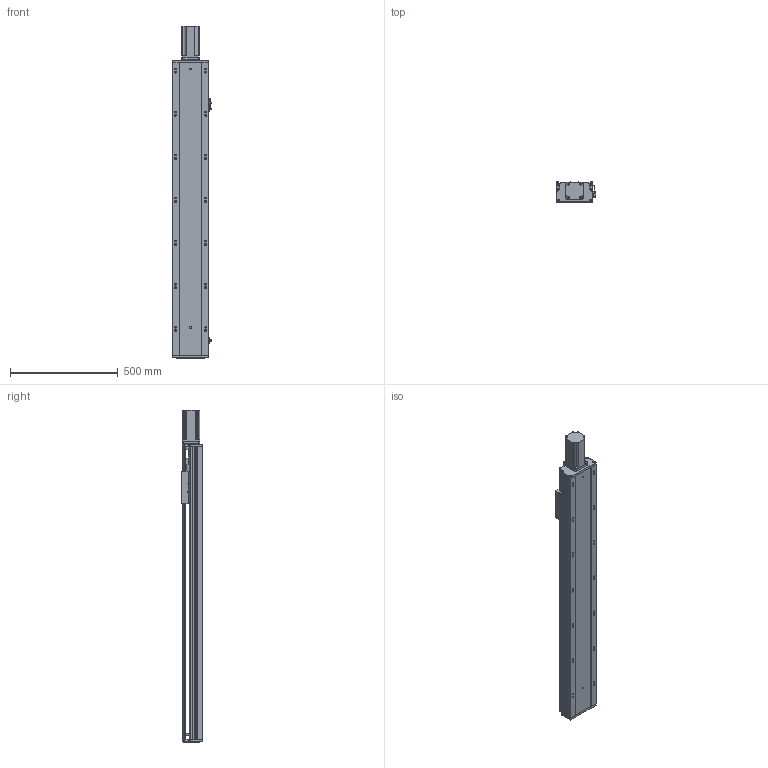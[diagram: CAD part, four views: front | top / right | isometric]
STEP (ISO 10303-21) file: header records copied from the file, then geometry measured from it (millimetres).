
FILE_DESCRIPTION (( 'STEP AP203' ), '1' );
FILE_NAME ('RY170-L2510-300-MK(FK17).SLDASM_1050.step', '2022-08-23T02:00:50', ( '' ), ( '' ), 'SwSTEP 2.0', 'SolidWorks 2016', '' );
FILE_SCHEMA (( 'CONFIG_CONTROL_DESIGN' ));
Length unit declared in the file: millimetre
Products named in the file (15): RY170-L2510-300-MK(FK17).SLDASM_1050; RY170-300倰第菁釱-MK_1050; 750W萇儂梓袧蛌諉啣; 侂狟400W侜督萇儂; RY170-300倰第裔啣-MK_1050; RY170电机端支撑座(25丝杆7004轴承)-压铸(FK17); RY170臏賑輸25佪裝蹟譫; RY170外置感应片(200共用）; 滅袉蝶18-28; RY170ヶ醱裔啣; 侂狟750W萇儂ㄗ80遺ㄘ; RY170綴裔啣; 滅袉蝶18-10; 15; 覜茼ん672
Assembly tree (16 placements, depth 3):
  RY170-L2510-300-MK(FK17).SLDASM_1050
    RY170-300倰第菁釱-MK_1050
    RY170-300倰第裔啣-MK_1050
    RY170臏賑輸25佪裝蹟譫
    侂狟400W侜督萇儂
      15
    RY170綴裔啣
    RY170电机端支撑座(25丝杆7004轴承)-压铸(FK17)
    覜茼ん672  x3
    RY170外置感应片(200共用）
    RY170ヶ醱裔啣
    滅袉蝶18-28
    滅袉蝶18-10
    侂狟750W萇儂ㄗ80遺ㄘ
    750W萇儂梓袧蛌諉啣
Bounding box: 183.7 x 97 x 1541 mm (x, y, z)
Volume: 7960709 mm3; surface area: 2374166.4 mm2
Topology: 15 solids, 15 shells, 2247 faces, 6395 edges, 4070 vertices
Faces by surface type: plane 1014, cylinder 938, cone 259, bspline 36
Entity records: 72059 total; most frequent: CARTESIAN_POINT 16522, ORIENTED_EDGE 11466, DIRECTION 11151, EDGE_CURVE 5733, AXIS2_PLACEMENT_3D 3888, VERTEX_POINT 3750, VECTOR 3375, LINE 3375
